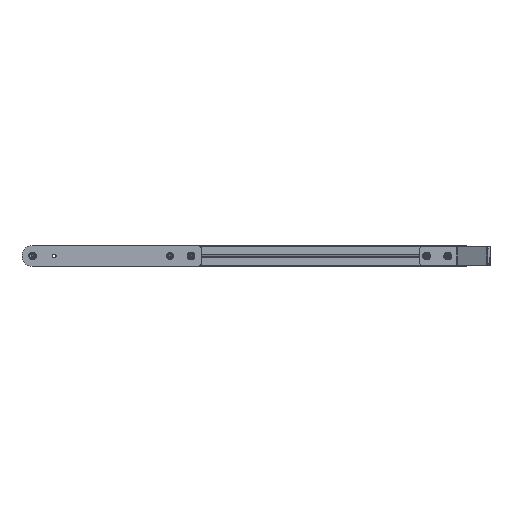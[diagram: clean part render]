
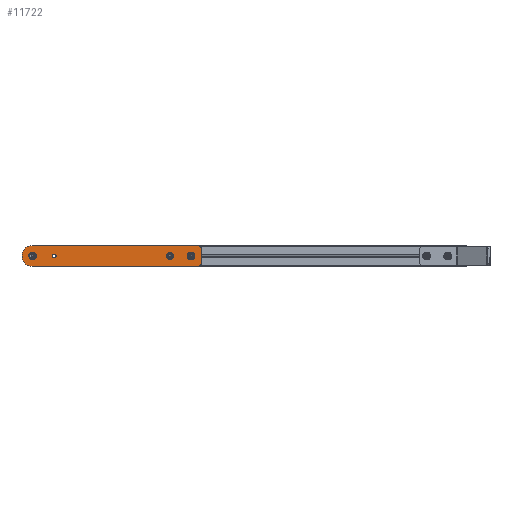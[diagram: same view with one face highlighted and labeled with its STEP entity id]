
A CAD part, left-side view. The second image highlights one B-rep face of the part: STEP entity #11722.
In plain terms, the highlighted planar face has unit normal (-1, 0, 0) as drawn and (0, 0, 1) by its records, which use the part's own axes.
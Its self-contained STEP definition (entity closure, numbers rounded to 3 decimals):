
#102 = VERTEX_POINT ( 'NONE', #3489 ) ;
#211 = CARTESIAN_POINT ( 'NONE',  ( 12.5, -350., 8. ) ) ;
#578 = DIRECTION ( 'NONE',  ( -1., 0., 0. ) ) ;
#614 = EDGE_CURVE ( 'NONE', #11941, #7235, #10532, .T. ) ;
#627 = CARTESIAN_POINT ( 'NONE',  ( 0., -46., 8. ) ) ;
#743 = AXIS2_PLACEMENT_3D ( 'NONE', #4107, #6164, #1477 ) ;
#864 = CIRCLE ( 'NONE', #11506, 4.25 ) ;
#1139 = VECTOR ( 'NONE', #7370, 1000. ) ;
#1153 = ORIENTED_EDGE ( 'NONE', *, *, #6686, .T. ) ;
#1164 = EDGE_CURVE ( 'NONE', #5747, #5747, #5893, .T. ) ;
#1477 = DIRECTION ( 'NONE',  ( -1., 0., 0. ) ) ;
#1509 = EDGE_CURVE ( 'NONE', #8577, #8577, #2028, .T. ) ;
#1643 = CARTESIAN_POINT ( 'NONE',  ( 22.5, 0., 8. ) ) ;
#1779 = LINE ( 'NONE', #1643, #1139 ) ;
#1988 = EDGE_CURVE ( 'NONE', #7235, #102, #8483, .T. ) ;
#2028 = CIRCLE ( 'NONE', #10517, 4.25 ) ;
#2102 = EDGE_CURVE ( 'NONE', #2137, #2137, #864, .T. ) ;
#2137 = VERTEX_POINT ( 'NONE', #9359 ) ;
#2427 = VECTOR ( 'NONE', #9308, 1000. ) ;
#2489 = ORIENTED_EDGE ( 'NONE', *, *, #6575, .T. ) ;
#2505 = FACE_BOUND ( 'NONE', #9727, .T. ) ;
#2828 = EDGE_CURVE ( 'NONE', #11389, #11389, #5109, .T. ) ;
#2925 = CARTESIAN_POINT ( 'NONE',  ( -12.5, -360., 8. ) ) ;
#3221 = CARTESIAN_POINT ( 'NONE',  ( 0., 0., 8. ) ) ;
#3316 = CARTESIAN_POINT ( 'NONE',  ( 22.5, -350., 8. ) ) ;
#3489 = CARTESIAN_POINT ( 'NONE',  ( 12.5, -360., 8. ) ) ;
#3496 = CARTESIAN_POINT ( 'NONE',  ( -22.5, 0., 8. ) ) ;
#3504 = ORIENTED_EDGE ( 'NONE', *, *, #1509, .F. ) ;
#3551 = LINE ( 'NONE', #3496, #11313 ) ;
#3737 = CARTESIAN_POINT ( 'NONE',  ( 4.25, -337.5, 8. ) ) ;
#4049 = PLANE ( 'NONE',  #743 ) ;
#4107 = CARTESIAN_POINT ( 'NONE',  ( 12.5, -350., 8. ) ) ;
#4279 = FACE_OUTER_BOUND ( 'NONE', #8992, .T. ) ;
#4675 = DIRECTION ( 'NONE',  ( 0., 0., 1. ) ) ;
#4821 = VERTEX_POINT ( 'NONE', #5300 ) ;
#4878 = VERTEX_POINT ( 'NONE', #3316 ) ;
#5015 = FACE_BOUND ( 'NONE', #11339, .T. ) ;
#5109 = CIRCLE ( 'NONE', #8968, 4.25 ) ;
#5300 = CARTESIAN_POINT ( 'NONE',  ( 22.5, 0., 8. ) ) ;
#5310 = DIRECTION ( 'NONE',  ( 0., -1., 0. ) ) ;
#5370 = DIRECTION ( 'NONE',  ( 1., 0., 0. ) ) ;
#5401 = CARTESIAN_POINT ( 'NONE',  ( 0., 0., 8. ) ) ;
#5747 = VERTEX_POINT ( 'NONE', #9238 ) ;
#5893 = CIRCLE ( 'NONE', #8959, 4.25 ) ;
#6164 = DIRECTION ( 'NONE',  ( 0., 0., -1. ) ) ;
#6180 = EDGE_LOOP ( 'NONE', ( #3504 ) ) ;
#6575 = EDGE_CURVE ( 'NONE', #4821, #9793, #7212, .T. ) ;
#6686 = EDGE_CURVE ( 'NONE', #102, #4878, #6827, .T. ) ;
#6824 = DIRECTION ( 'NONE',  ( 0., 0., 1. ) ) ;
#6827 = CIRCLE ( 'NONE', #11881, 10. ) ;
#7199 = DIRECTION ( 'NONE',  ( 0., 0., 1. ) ) ;
#7212 = CIRCLE ( 'NONE', #11305, 22.5 ) ;
#7235 = VERTEX_POINT ( 'NONE', #10598 ) ;
#7370 = DIRECTION ( 'NONE',  ( 0., 1., 0. ) ) ;
#7418 = EDGE_LOOP ( 'NONE', ( #10090 ) ) ;
#7668 = CARTESIAN_POINT ( 'NONE',  ( 4.25, -46., 8. ) ) ;
#8131 = CARTESIAN_POINT ( 'NONE',  ( -22.5, 0., 8. ) ) ;
#8365 = DIRECTION ( 'NONE',  ( 0., 0., 1. ) ) ;
#8431 = DIRECTION ( 'NONE',  ( -1., 0., 0. ) ) ;
#8483 = LINE ( 'NONE', #2925, #2427 ) ;
#8577 = VERTEX_POINT ( 'NONE', #7668 ) ;
#8615 = EDGE_CURVE ( 'NONE', #9793, #11941, #3551, .T. ) ;
#8719 = ORIENTED_EDGE ( 'NONE', *, *, #2102, .F. ) ;
#8959 = AXIS2_PLACEMENT_3D ( 'NONE', #11801, #9094, #11925 ) ;
#8968 = AXIS2_PLACEMENT_3D ( 'NONE', #9267, #4675, #5370 ) ;
#8992 = EDGE_LOOP ( 'NONE', ( #1153, #11063, #2489, #9786, #10584, #9278 ) ) ;
#9094 = DIRECTION ( 'NONE',  ( 0., 0., 1. ) ) ;
#9238 = CARTESIAN_POINT ( 'NONE',  ( 4.25, -292.5, 8. ) ) ;
#9267 = CARTESIAN_POINT ( 'NONE',  ( 0., -337.5, 8. ) ) ;
#9278 = ORIENTED_EDGE ( 'NONE', *, *, #1988, .T. ) ;
#9308 = DIRECTION ( 'NONE',  ( 1., 0., 0. ) ) ;
#9359 = CARTESIAN_POINT ( 'NONE',  ( 4.25, 0., 8. ) ) ;
#9727 = EDGE_LOOP ( 'NONE', ( #8719 ) ) ;
#9780 = DIRECTION ( 'NONE',  ( 1., 0., 0. ) ) ;
#9786 = ORIENTED_EDGE ( 'NONE', *, *, #8615, .T. ) ;
#9793 = VERTEX_POINT ( 'NONE', #8131 ) ;
#9800 = FACE_BOUND ( 'NONE', #6180, .T. ) ;
#9974 = CARTESIAN_POINT ( 'NONE',  ( -22.5, -350., 8. ) ) ;
#10090 = ORIENTED_EDGE ( 'NONE', *, *, #2828, .F. ) ;
#10337 = AXIS2_PLACEMENT_3D ( 'NONE', #10696, #10521, #9780 ) ;
#10477 = DIRECTION ( 'NONE',  ( 1., 0., 0. ) ) ;
#10517 = AXIS2_PLACEMENT_3D ( 'NONE', #627, #10810, #11110 ) ;
#10521 = DIRECTION ( 'NONE',  ( 0., 0., 1. ) ) ;
#10532 = CIRCLE ( 'NONE', #10337, 10. ) ;
#10584 = ORIENTED_EDGE ( 'NONE', *, *, #614, .T. ) ;
#10598 = CARTESIAN_POINT ( 'NONE',  ( -12.5, -360., 8. ) ) ;
#10696 = CARTESIAN_POINT ( 'NONE',  ( -12.5, -350., 8. ) ) ;
#10810 = DIRECTION ( 'NONE',  ( 0., 0., 1. ) ) ;
#11063 = ORIENTED_EDGE ( 'NONE', *, *, #11806, .T. ) ;
#11110 = DIRECTION ( 'NONE',  ( 1., 0., 0. ) ) ;
#11305 = AXIS2_PLACEMENT_3D ( 'NONE', #5401, #7199, #578 ) ;
#11313 = VECTOR ( 'NONE', #5310, 1000. ) ;
#11339 = EDGE_LOOP ( 'NONE', ( #11588 ) ) ;
#11389 = VERTEX_POINT ( 'NONE', #3737 ) ;
#11506 = AXIS2_PLACEMENT_3D ( 'NONE', #3221, #6824, #10477 ) ;
#11582 = FACE_BOUND ( 'NONE', #7418, .T. ) ;
#11588 = ORIENTED_EDGE ( 'NONE', *, *, #1164, .F. ) ;
#11722 = ADVANCED_FACE ( 'NONE', ( #11582, #5015, #9800, #2505, #4279 ), #4049, .F. ) ;
#11801 = CARTESIAN_POINT ( 'NONE',  ( 0., -292.5, 8. ) ) ;
#11806 = EDGE_CURVE ( 'NONE', #4878, #4821, #1779, .T. ) ;
#11881 = AXIS2_PLACEMENT_3D ( 'NONE', #211, #8365, #8431 ) ;
#11925 = DIRECTION ( 'NONE',  ( 1., 0., 0. ) ) ;
#11941 = VERTEX_POINT ( 'NONE', #9974 ) ;
